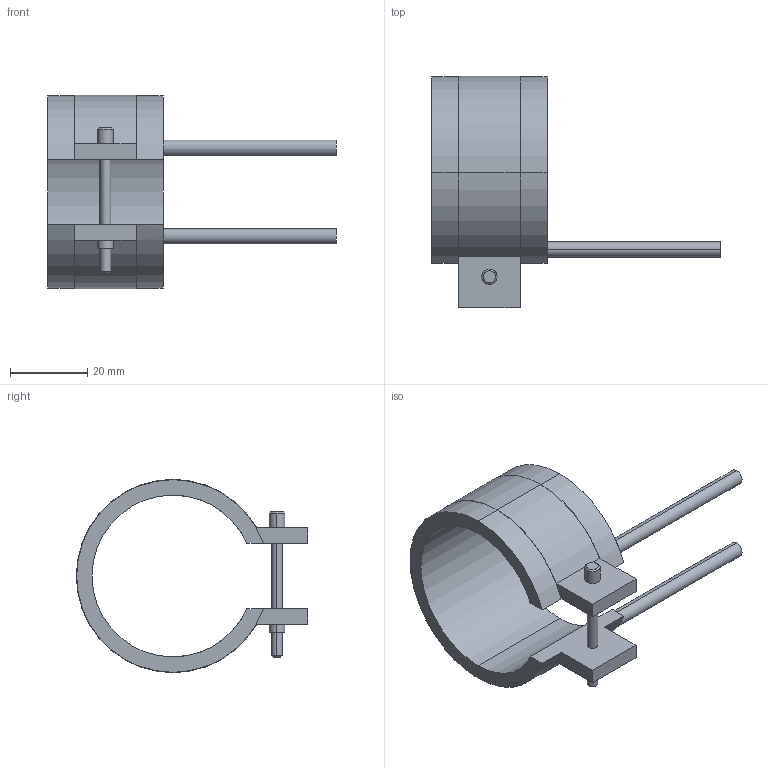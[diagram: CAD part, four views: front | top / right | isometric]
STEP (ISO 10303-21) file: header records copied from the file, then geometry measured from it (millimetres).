
FILE_DESCRIPTION(('CATIA V5 STEP Exchange'),'2;1');
FILE_NAME('C:\Users\Utente\Desktop\IO LAVORO\3D X SITO CF\X SITO\PLASTICA\RF2\14042030.stp','2021-03-31T12:04:08+00:00',('none'),('none'),'CATIA Version 5 Release 20 GA (IN-10)','CATIA V5 STEP AP203','none');
FILE_SCHEMA(('CONFIG_CONTROL_DESIGN'));
Length unit declared in the file: millimetre
Products named in the file (1): 14042030
Bounding box: 75 x 60.1 x 50.2 mm (x, y, z)
Volume: 18395.2 mm3; surface area: 11311.3 mm2
Topology: 1 solids, 1 shells, 45 faces, 116 edges, 76 vertices
Faces by surface type: cylinder 24, plane 17, cone 4
Entity records: 1412 total; most frequent: CARTESIAN_POINT 290, ORIENTED_EDGE 232, DIRECTION 194, EDGE_CURVE 116, AXIS2_PLACEMENT_3D 102, VERTEX_POINT 76, CIRCLE 60, VECTOR 52
